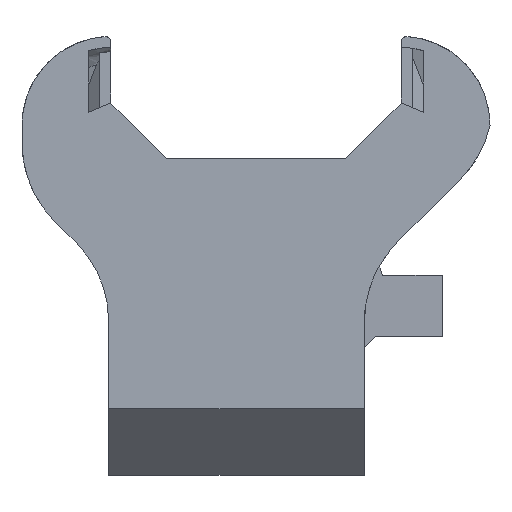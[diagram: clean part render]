
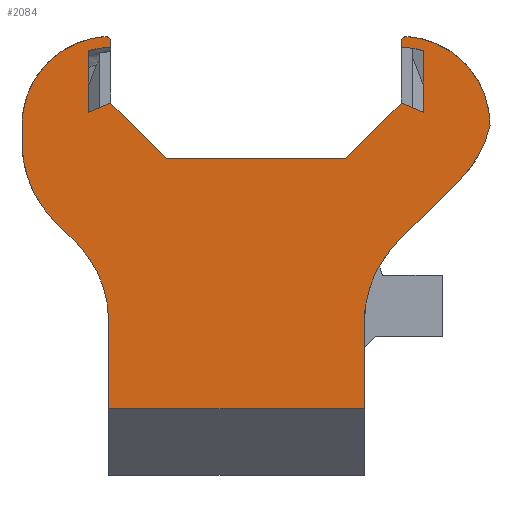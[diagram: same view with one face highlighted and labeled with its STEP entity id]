
A CAD part, front view. The second image highlights one B-rep face of the part: STEP entity #2084.
In plain terms, the highlighted planar face has unit normal (0, -1, 0).
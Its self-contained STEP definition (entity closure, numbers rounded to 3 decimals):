
#55=PLANE('',#2237);
#148=FACE_OUTER_BOUND('',#265,.T.);
#265=EDGE_LOOP('',(#1556,#1557,#1558,#1559,#1560,#1561,#1562,#1563,#1564,
#1565,#1566,#1567,#1568,#1569,#1570,#1571,#1572,#1573,#1574,#1575,#1576,
#1577,#1578,#1579,#1580,#1581));
#466=LINE('',#3260,#710);
#472=LINE('',#3273,#716);
#476=LINE('',#3282,#720);
#477=LINE('',#3284,#721);
#478=LINE('',#3286,#722);
#479=LINE('',#3287,#723);
#480=LINE('',#3289,#724);
#481=LINE('',#3296,#725);
#482=LINE('',#3298,#726);
#483=LINE('',#3299,#727);
#484=LINE('',#3301,#728);
#485=LINE('',#3303,#729);
#486=LINE('',#3305,#730);
#487=LINE('',#3308,#731);
#488=LINE('',#3312,#732);
#489=LINE('',#3316,#733);
#710=VECTOR('',#2525,1000.);
#716=VECTOR('',#2533,1000.);
#720=VECTOR('',#2539,1000.);
#721=VECTOR('',#2540,1000.);
#722=VECTOR('',#2541,1000.);
#723=VECTOR('',#2542,1000.);
#724=VECTOR('',#2543,1000.);
#725=VECTOR('',#2550,1000.);
#726=VECTOR('',#2551,1000.);
#727=VECTOR('',#2552,1000.);
#728=VECTOR('',#2553,1000.);
#729=VECTOR('',#2554,1000.);
#730=VECTOR('',#2555,1000.);
#731=VECTOR('',#2558,1000.);
#732=VECTOR('',#2561,1000.);
#733=VECTOR('',#2564,1000.);
#873=CIRCLE('',#2200,0.5);
#874=CIRCLE('',#2204,0.5);
#885=CIRCLE('',#2228,10.);
#887=CIRCLE('',#2238,10.);
#888=CIRCLE('',#2239,8.);
#889=CIRCLE('',#2240,7.);
#890=CIRCLE('',#2241,7.);
#891=CIRCLE('',#2242,8.);
#892=CIRCLE('',#2243,10.);
#893=CIRCLE('',#2244,10.);
#909=VERTEX_POINT('',#2937);
#910=VERTEX_POINT('',#2938);
#914=VERTEX_POINT('',#2948);
#915=VERTEX_POINT('',#2949);
#982=VERTEX_POINT('',#3095);
#983=VERTEX_POINT('',#3098);
#1005=VERTEX_POINT('',#3254);
#1007=VERTEX_POINT('',#3258);
#1013=VERTEX_POINT('',#3271);
#1016=VERTEX_POINT('',#3280);
#1017=VERTEX_POINT('',#3281);
#1018=VERTEX_POINT('',#3283);
#1019=VERTEX_POINT('',#3285);
#1020=VERTEX_POINT('',#3288);
#1021=VERTEX_POINT('',#3290);
#1022=VERTEX_POINT('',#3293);
#1023=VERTEX_POINT('',#3295);
#1024=VERTEX_POINT('',#3297);
#1025=VERTEX_POINT('',#3300);
#1026=VERTEX_POINT('',#3302);
#1027=VERTEX_POINT('',#3304);
#1028=VERTEX_POINT('',#3306);
#1029=VERTEX_POINT('',#3309);
#1030=VERTEX_POINT('',#3311);
#1031=VERTEX_POINT('',#3313);
#1032=VERTEX_POINT('',#3315);
#1109=EDGE_CURVE('',#909,#910,#873,.T.);
#1114=EDGE_CURVE('',#914,#915,#874,.T.);
#1188=EDGE_CURVE('',#982,#983,#885,.T.);
#1216=EDGE_CURVE('',#1007,#1005,#466,.T.);
#1222=EDGE_CURVE('',#1013,#915,#472,.T.);
#1226=EDGE_CURVE('',#1016,#1017,#476,.T.);
#1227=EDGE_CURVE('',#1016,#1018,#477,.T.);
#1228=EDGE_CURVE('',#1019,#1018,#478,.T.);
#1229=EDGE_CURVE('',#982,#1019,#479,.T.);
#1230=EDGE_CURVE('',#1020,#983,#480,.T.);
#1231=EDGE_CURVE('',#1020,#1021,#887,.T.);
#1232=EDGE_CURVE('',#1021,#914,#888,.T.);
#1233=EDGE_CURVE('',#1013,#1022,#889,.T.);
#1234=EDGE_CURVE('',#1022,#1023,#481,.T.);
#1235=EDGE_CURVE('',#1023,#1024,#482,.T.);
#1236=EDGE_CURVE('',#1005,#1024,#483,.T.);
#1237=EDGE_CURVE('',#1025,#1007,#484,.T.);
#1238=EDGE_CURVE('',#1026,#1025,#485,.T.);
#1239=EDGE_CURVE('',#1027,#1026,#486,.T.);
#1240=EDGE_CURVE('',#1028,#1027,#890,.T.);
#1241=EDGE_CURVE('',#909,#1028,#487,.T.);
#1242=EDGE_CURVE('',#910,#1029,#891,.T.);
#1243=EDGE_CURVE('',#1030,#1029,#488,.T.);
#1244=EDGE_CURVE('',#1030,#1031,#892,.T.);
#1245=EDGE_CURVE('',#1032,#1031,#489,.T.);
#1246=EDGE_CURVE('',#1032,#1017,#893,.T.);
#1556=ORIENTED_EDGE('',*,*,#1226,.F.);
#1557=ORIENTED_EDGE('',*,*,#1227,.T.);
#1558=ORIENTED_EDGE('',*,*,#1228,.F.);
#1559=ORIENTED_EDGE('',*,*,#1229,.F.);
#1560=ORIENTED_EDGE('',*,*,#1188,.T.);
#1561=ORIENTED_EDGE('',*,*,#1230,.F.);
#1562=ORIENTED_EDGE('',*,*,#1231,.T.);
#1563=ORIENTED_EDGE('',*,*,#1232,.T.);
#1564=ORIENTED_EDGE('',*,*,#1114,.T.);
#1565=ORIENTED_EDGE('',*,*,#1222,.F.);
#1566=ORIENTED_EDGE('',*,*,#1233,.T.);
#1567=ORIENTED_EDGE('',*,*,#1234,.T.);
#1568=ORIENTED_EDGE('',*,*,#1235,.T.);
#1569=ORIENTED_EDGE('',*,*,#1236,.F.);
#1570=ORIENTED_EDGE('',*,*,#1216,.F.);
#1571=ORIENTED_EDGE('',*,*,#1237,.F.);
#1572=ORIENTED_EDGE('',*,*,#1238,.F.);
#1573=ORIENTED_EDGE('',*,*,#1239,.F.);
#1574=ORIENTED_EDGE('',*,*,#1240,.F.);
#1575=ORIENTED_EDGE('',*,*,#1241,.F.);
#1576=ORIENTED_EDGE('',*,*,#1109,.T.);
#1577=ORIENTED_EDGE('',*,*,#1242,.T.);
#1578=ORIENTED_EDGE('',*,*,#1243,.F.);
#1579=ORIENTED_EDGE('',*,*,#1244,.T.);
#1580=ORIENTED_EDGE('',*,*,#1245,.F.);
#1581=ORIENTED_EDGE('',*,*,#1246,.T.);
#2084=ADVANCED_FACE('',(#148),#55,.F.);
#2200=AXIS2_PLACEMENT_3D('',#2939,#2371,#2372);
#2204=AXIS2_PLACEMENT_3D('',#2950,#2381,#2382);
#2228=AXIS2_PLACEMENT_3D('',#3100,#2487,#2488);
#2237=AXIS2_PLACEMENT_3D('',#3279,#2537,#2538);
#2238=AXIS2_PLACEMENT_3D('',#3291,#2544,#2545);
#2239=AXIS2_PLACEMENT_3D('',#3292,#2546,#2547);
#2240=AXIS2_PLACEMENT_3D('',#3294,#2548,#2549);
#2241=AXIS2_PLACEMENT_3D('',#3307,#2556,#2557);
#2242=AXIS2_PLACEMENT_3D('',#3310,#2559,#2560);
#2243=AXIS2_PLACEMENT_3D('',#3314,#2562,#2563);
#2244=AXIS2_PLACEMENT_3D('',#3317,#2565,#2566);
#2371=DIRECTION('center_axis',(0.,-1.,0.));
#2372=DIRECTION('ref_axis',(0.,0.,1.));
#2381=DIRECTION('center_axis',(0.,-1.,0.));
#2382=DIRECTION('ref_axis',(0.,0.,1.));
#2487=DIRECTION('center_axis',(0.,1.,0.));
#2488=DIRECTION('ref_axis',(0.,0.,1.));
#2525=DIRECTION('',(1.,0.,0.));
#2533=DIRECTION('',(0.,0.,1.));
#2537=DIRECTION('center_axis',(0.,1.,0.));
#2538=DIRECTION('ref_axis',(0.,0.,1.));
#2539=DIRECTION('',(0.,0.,1.));
#2540=DIRECTION('',(1.,0.,0.));
#2541=DIRECTION('',(0.,0.,-1.));
#2542=DIRECTION('',(0.,0.,-1.));
#2543=DIRECTION('',(-0.707,0.,-0.707));
#2544=DIRECTION('center_axis',(0.,-1.,0.));
#2545=DIRECTION('ref_axis',(0.,0.,1.));
#2546=DIRECTION('center_axis',(0.,-1.,0.));
#2547=DIRECTION('ref_axis',(0.,0.,1.));
#2548=DIRECTION('center_axis',(0.,1.,0.));
#2549=DIRECTION('ref_axis',(0.,0.,-1.));
#2550=DIRECTION('',(0.,0.,-1.));
#2551=DIRECTION('',(-0.924,0.,0.383));
#2552=DIRECTION('',(0.707,0.,0.707));
#2553=DIRECTION('',(0.707,0.,-0.707));
#2554=DIRECTION('',(0.924,0.,0.383));
#2555=DIRECTION('',(0.,0.,-1.));
#2556=DIRECTION('center_axis',(0.,-1.,0.));
#2557=DIRECTION('ref_axis',(0.,0.,-1.));
#2558=DIRECTION('',(0.,0.,-1.));
#2559=DIRECTION('center_axis',(0.,-1.,0.));
#2560=DIRECTION('ref_axis',(0.,0.,1.));
#2561=DIRECTION('',(0.,0.,1.));
#2562=DIRECTION('center_axis',(0.,-1.,0.));
#2563=DIRECTION('ref_axis',(0.,0.,1.));
#2564=DIRECTION('',(-0.707,0.,0.707));
#2565=DIRECTION('center_axis',(0.,1.,0.));
#2566=DIRECTION('ref_axis',(0.,0.,1.));
#2937=CARTESIAN_POINT('',(-13.05,3.,-3.517));
#2938=CARTESIAN_POINT('',(-13.583,3.,-3.018));
#2939=CARTESIAN_POINT('Origin',(-13.55,3.,-3.517));
#2948=CARTESIAN_POINT('',(13.583,3.,-3.018));
#2949=CARTESIAN_POINT('',(13.05,3.,-3.517));
#2950=CARTESIAN_POINT('Origin',(13.55,3.,-3.517));
#3095=CARTESIAN_POINT('',(9.75,3.,-28.642));
#3098=CARTESIAN_POINT('',(12.679,3.,-21.571));
#3100=CARTESIAN_POINT('Origin',(19.75,3.,-28.642));
#3254=CARTESIAN_POINT('',(8.05,3.,-14.));
#3258=CARTESIAN_POINT('',(-8.05,3.,-14.));
#3260=CARTESIAN_POINT('',(8.05,3.,-14.));
#3271=CARTESIAN_POINT('',(13.05,3.,-4.));
#3273=CARTESIAN_POINT('',(13.05,3.,-3.));
#3279=CARTESIAN_POINT('Origin',(0.,3.,0.));
#3280=CARTESIAN_POINT('',(-13.25,3.,-36.5));
#3281=CARTESIAN_POINT('',(-13.25,3.,-28.642));
#3282=CARTESIAN_POINT('',(-13.25,3.,-24.5));
#3283=CARTESIAN_POINT('',(9.75,3.,-36.5));
#3284=CARTESIAN_POINT('',(0.,3.,-36.5));
#3285=CARTESIAN_POINT('',(9.75,3.,-31.));
#3286=CARTESIAN_POINT('',(9.75,3.,-42.5));
#3287=CARTESIAN_POINT('',(9.75,3.,-42.5));
#3288=CARTESIAN_POINT('',(18.362,3.,-15.888));
#3289=CARTESIAN_POINT('',(9.75,3.,-24.5));
#3290=CARTESIAN_POINT('',(21.05,3.,-11.));
#3291=CARTESIAN_POINT('Origin',(11.291,3.,-8.817));
#3292=CARTESIAN_POINT('Origin',(13.05,3.,-11.));
#3293=CARTESIAN_POINT('',(15.05,3.,-4.292));
#3294=CARTESIAN_POINT('Origin',(13.05,3.,-11.));
#3295=CARTESIAN_POINT('',(15.05,3.,-9.828));
#3296=CARTESIAN_POINT('',(15.05,3.,-4.292));
#3297=CARTESIAN_POINT('',(13.05,3.,-9.));
#3298=CARTESIAN_POINT('',(15.05,3.,-9.828));
#3299=CARTESIAN_POINT('',(13.05,3.,-9.));
#3300=CARTESIAN_POINT('',(-13.05,3.,-9.));
#3301=CARTESIAN_POINT('',(-8.05,3.,-14.));
#3302=CARTESIAN_POINT('',(-15.05,3.,-9.828));
#3303=CARTESIAN_POINT('',(-15.05,3.,-9.828));
#3304=CARTESIAN_POINT('',(-15.05,3.,-4.292));
#3305=CARTESIAN_POINT('',(-15.05,3.,-4.292));
#3306=CARTESIAN_POINT('',(-13.05,3.,-4.));
#3307=CARTESIAN_POINT('Origin',(-13.05,3.,-11.));
#3308=CARTESIAN_POINT('',(-13.05,3.,-9.));
#3309=CARTESIAN_POINT('',(-21.05,3.,-11.));
#3310=CARTESIAN_POINT('Origin',(-13.05,3.,-11.));
#3311=CARTESIAN_POINT('',(-21.05,3.,-12.558));
#3312=CARTESIAN_POINT('',(-21.05,3.,-3.));
#3313=CARTESIAN_POINT('',(-18.121,3.,-19.629));
#3314=CARTESIAN_POINT('Origin',(-11.05,3.,-12.558));
#3315=CARTESIAN_POINT('',(-16.179,3.,-21.571));
#3316=CARTESIAN_POINT('',(-21.05,3.,-16.7));
#3317=CARTESIAN_POINT('Origin',(-23.25,3.,-28.642));
